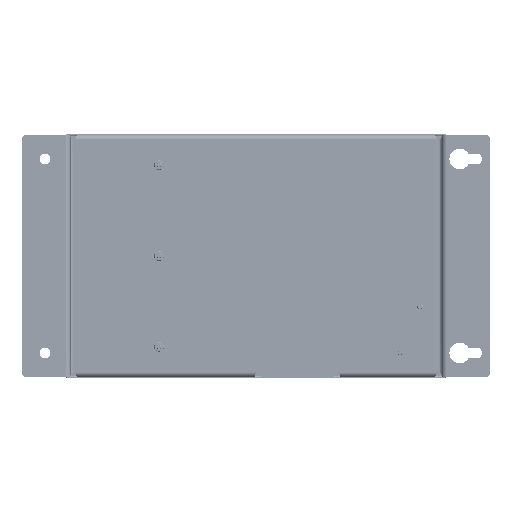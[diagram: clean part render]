
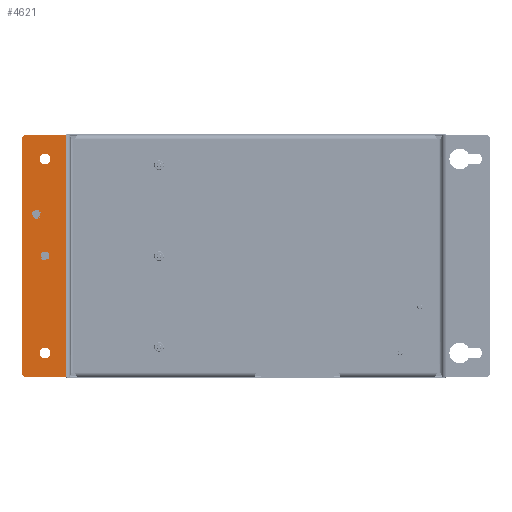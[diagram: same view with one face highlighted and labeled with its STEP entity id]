
A CAD part, front view. The second image highlights one B-rep face of the part: STEP entity #4621.
In plain terms, the highlighted planar face has unit normal (0, -1, 0).
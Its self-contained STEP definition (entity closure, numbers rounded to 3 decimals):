
#1479=DIRECTION('',(0.,0.,1.));
#1480=VECTOR('',#1479,200.);
#1481=CARTESIAN_POINT('',(-157.,-22.,-100.));
#1482=LINE('',#1481,#1480);
#1497=DIRECTION('',(0.707,0.,-0.707));
#1498=VECTOR('',#1497,2.828);
#1499=CARTESIAN_POINT('',(-193.,-22.,-98.));
#1500=LINE('',#1499,#1498);
#1501=DIRECTION('',(0.,0.,-1.));
#1502=VECTOR('',#1501,196.);
#1503=CARTESIAN_POINT('',(-193.,-22.,98.));
#1504=LINE('',#1503,#1502);
#1505=DIRECTION('',(-0.707,0.,-0.707));
#1506=VECTOR('',#1505,2.828);
#1507=CARTESIAN_POINT('',(-191.,-22.,100.));
#1508=LINE('',#1507,#1506);
#1509=DIRECTION('',(-1.,0.,0.));
#1510=VECTOR('',#1509,34.);
#1511=CARTESIAN_POINT('',(-157.,-22.,100.));
#1512=LINE('',#1511,#1510);
#1513=DIRECTION('',(1.,0.,0.));
#1514=VECTOR('',#1513,34.);
#1515=CARTESIAN_POINT('',(-191.,-22.,-100.));
#1516=LINE('',#1515,#1514);
#1517=CARTESIAN_POINT('',(-174.,-22.,-80.));
#1518=DIRECTION('',(0.,1.,0.));
#1519=DIRECTION('',(0.,0.,1.));
#1520=AXIS2_PLACEMENT_3D('',#1517,#1518,#1519);
#1522=CARTESIAN_POINT('',(-174.,-22.,-80.));
#1523=DIRECTION('',(0.,1.,0.));
#1524=DIRECTION('',(0.,0.,-1.));
#1525=AXIS2_PLACEMENT_3D('',#1522,#1523,#1524);
#1527=CARTESIAN_POINT('',(-174.,-22.,80.));
#1528=DIRECTION('',(0.,1.,0.));
#1529=DIRECTION('',(0.,0.,1.));
#1530=AXIS2_PLACEMENT_3D('',#1527,#1528,#1529);
#1532=CARTESIAN_POINT('',(-174.,-22.,80.));
#1533=DIRECTION('',(0.,1.,0.));
#1534=DIRECTION('',(0.,0.,-1.));
#1535=AXIS2_PLACEMENT_3D('',#1532,#1533,#1534);
#1537=CARTESIAN_POINT('',(-174.,-22.,0.));
#1538=DIRECTION('',(0.,1.,0.));
#1539=DIRECTION('',(0.,0.,-1.));
#1540=AXIS2_PLACEMENT_3D('',#1537,#1538,#1539);
#1542=CARTESIAN_POINT('',(-174.,-22.,0.));
#1543=DIRECTION('',(0.,1.,0.));
#1544=DIRECTION('',(0.,0.,1.));
#1545=AXIS2_PLACEMENT_3D('',#1542,#1543,#1544);
#1547=CARTESIAN_POINT('',(-181.,-22.,34.5));
#1548=DIRECTION('',(0.,-1.,0.));
#1549=DIRECTION('',(0.,0.,-1.));
#1550=AXIS2_PLACEMENT_3D('',#1547,#1548,#1549);
#1552=CARTESIAN_POINT('',(-181.,-22.,34.5));
#1553=DIRECTION('',(0.,-1.,0.));
#1554=DIRECTION('',(0.,0.,1.));
#1555=AXIS2_PLACEMENT_3D('',#1552,#1553,#1554);
#2071=CARTESIAN_POINT('',(-157.,-22.,-100.));
#2072=CARTESIAN_POINT('',(-157.,-22.,100.));
#2073=VERTEX_POINT('',#2071);
#2074=VERTEX_POINT('',#2072);
#2367=CARTESIAN_POINT('',(-174.,-22.,-75.5));
#2368=CARTESIAN_POINT('',(-174.,-22.,-84.5));
#2369=VERTEX_POINT('',#2367);
#2370=VERTEX_POINT('',#2368);
#2371=CARTESIAN_POINT('',(-174.,-22.,84.5));
#2372=CARTESIAN_POINT('',(-174.,-22.,75.5));
#2373=VERTEX_POINT('',#2371);
#2374=VERTEX_POINT('',#2372);
#2499=CARTESIAN_POINT('',(-174.,-22.,-3.));
#2500=CARTESIAN_POINT('',(-174.,-22.,3.));
#2501=VERTEX_POINT('',#2499);
#2502=VERTEX_POINT('',#2500);
#2523=CARTESIAN_POINT('',(-181.,-22.,31.5));
#2524=CARTESIAN_POINT('',(-181.,-22.,37.5));
#2525=VERTEX_POINT('',#2523);
#2526=VERTEX_POINT('',#2524);
#2601=CARTESIAN_POINT('',(-193.,-22.,-98.));
#2602=CARTESIAN_POINT('',(-191.,-22.,-100.));
#2603=VERTEX_POINT('',#2601);
#2604=VERTEX_POINT('',#2602);
#2609=CARTESIAN_POINT('',(-191.,-22.,100.));
#2610=CARTESIAN_POINT('',(-193.,-22.,98.));
#2611=VERTEX_POINT('',#2609);
#2612=VERTEX_POINT('',#2610);
#4579=CARTESIAN_POINT('',(-153.,-22.,100.));
#4580=DIRECTION('',(0.,-1.,0.));
#4581=DIRECTION('',(0.,0.,1.));
#4582=AXIS2_PLACEMENT_3D('',#4579,#4580,#4581);
#4583=PLANE('',#4582);
#4585=ORIENTED_EDGE('',*,*,#4584,.F.);
#4587=ORIENTED_EDGE('',*,*,#4586,.F.);
#4589=ORIENTED_EDGE('',*,*,#4588,.F.);
#4591=ORIENTED_EDGE('',*,*,#4590,.F.);
#4592=ORIENTED_EDGE('',*,*,#4570,.F.);
#4594=ORIENTED_EDGE('',*,*,#4593,.F.);
#4595=EDGE_LOOP('',(#4585,#4587,#4589,#4591,#4592,#4594));
#4596=FACE_OUTER_BOUND('',#4595,.F.);
#4598=ORIENTED_EDGE('',*,*,#4597,.F.);
#4600=ORIENTED_EDGE('',*,*,#4599,.F.);
#4601=EDGE_LOOP('',(#4598,#4600));
#4602=FACE_BOUND('',#4601,.F.);
#4604=ORIENTED_EDGE('',*,*,#4603,.F.);
#4606=ORIENTED_EDGE('',*,*,#4605,.F.);
#4607=EDGE_LOOP('',(#4604,#4606));
#4608=FACE_BOUND('',#4607,.F.);
#4610=ORIENTED_EDGE('',*,*,#4609,.F.);
#4612=ORIENTED_EDGE('',*,*,#4611,.F.);
#4613=EDGE_LOOP('',(#4610,#4612));
#4614=FACE_BOUND('',#4613,.F.);
#4616=ORIENTED_EDGE('',*,*,#4615,.T.);
#4618=ORIENTED_EDGE('',*,*,#4617,.T.);
#4619=EDGE_LOOP('',(#4616,#4618));
#4620=FACE_BOUND('',#4619,.F.);
#1521=CIRCLE('',#1520,4.5);
#1526=CIRCLE('',#1525,4.5);
#1531=CIRCLE('',#1530,4.5);
#1536=CIRCLE('',#1535,4.5);
#1541=CIRCLE('',#1540,3.);
#1546=CIRCLE('',#1545,3.);
#1551=CIRCLE('',#1550,3.);
#1556=CIRCLE('',#1555,3.);
#4570=EDGE_CURVE('',#2073,#2074,#1482,.T.);
#4584=EDGE_CURVE('',#2603,#2604,#1500,.T.);
#4586=EDGE_CURVE('',#2612,#2603,#1504,.T.);
#4588=EDGE_CURVE('',#2611,#2612,#1508,.T.);
#4590=EDGE_CURVE('',#2074,#2611,#1512,.T.);
#4593=EDGE_CURVE('',#2604,#2073,#1516,.T.);
#4597=EDGE_CURVE('',#2369,#2370,#1521,.T.);
#4599=EDGE_CURVE('',#2370,#2369,#1526,.T.);
#4603=EDGE_CURVE('',#2373,#2374,#1531,.T.);
#4605=EDGE_CURVE('',#2374,#2373,#1536,.T.);
#4609=EDGE_CURVE('',#2501,#2502,#1541,.T.);
#4611=EDGE_CURVE('',#2502,#2501,#1546,.T.);
#4615=EDGE_CURVE('',#2525,#2526,#1551,.T.);
#4617=EDGE_CURVE('',#2526,#2525,#1556,.T.);
#4621=ADVANCED_FACE('',(#4596,#4602,#4608,#4614,#4620),#4583,.T.);
